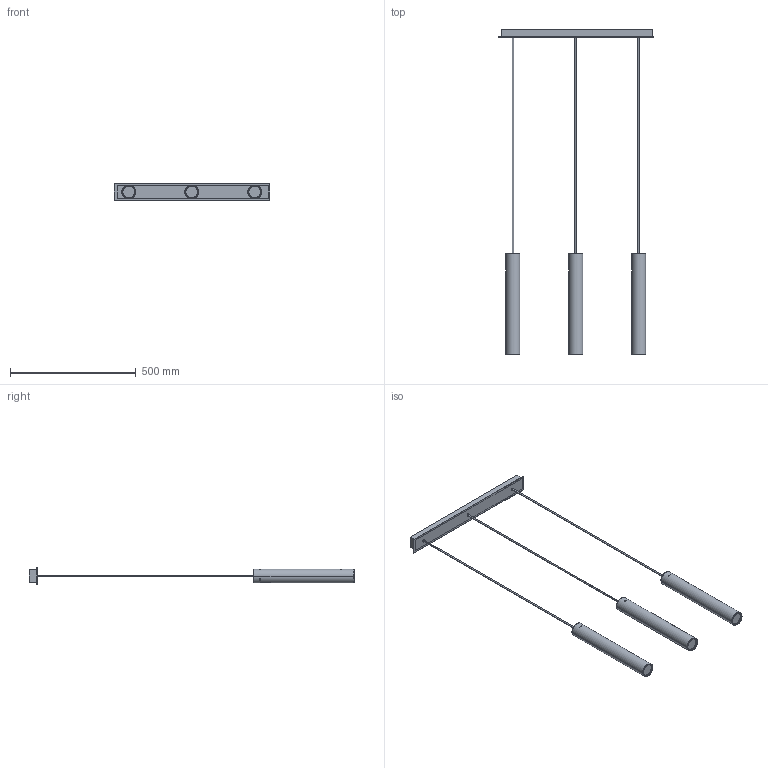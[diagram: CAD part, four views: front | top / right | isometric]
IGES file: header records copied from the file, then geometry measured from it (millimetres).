
Start section: SolidWorks IGES file using analytic representation for surfaces
Global section: file name: E:\_DESIGN\Aura\Elementy wspólne\EYE_6481,6482.IGS; native system: SolidWorks 2016; preprocessor: SolidWorks 2016; author: Asia; date: 160801.130417; units: millimetre
Bounding box: 616 x 1291.18 x 65 mm (x, y, z)
Surface area: 615938.7 mm2 (no closed solid volume)
Topology: 0 solids, 0 shells, 185 faces, 3834 edges, 3834 vertices
Faces by surface type: revolution 96, bspline 89
